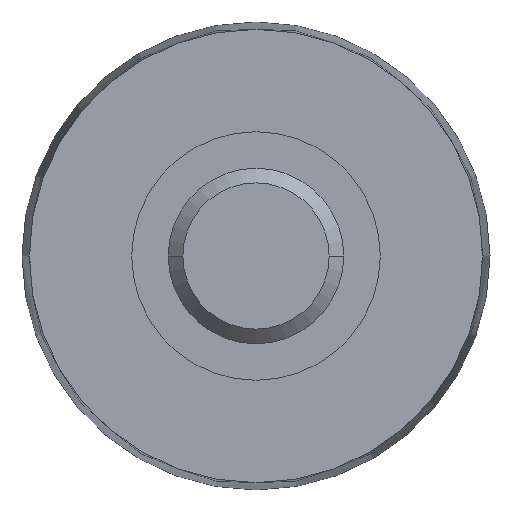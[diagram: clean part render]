
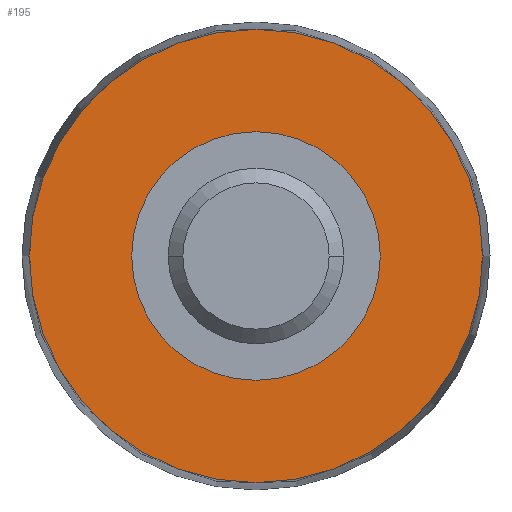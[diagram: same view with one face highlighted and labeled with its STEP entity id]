
A CAD part, left-side view. The second image highlights one B-rep face of the part: STEP entity #195.
In plain terms, the highlighted planar face has unit normal (-1, 0, 0).
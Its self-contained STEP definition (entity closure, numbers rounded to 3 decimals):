
#14 = DIRECTION ( 'NONE',  ( 1., 0., 0. ) ) ;
#26 = AXIS2_PLACEMENT_3D ( 'NONE', #164, #519, #525 ) ;
#27 = EDGE_CURVE ( 'NONE', #235, #449, #210, .T. ) ;
#49 = DIRECTION ( 'NONE',  ( 1., 0., 0. ) ) ;
#54 = EDGE_CURVE ( 'NONE', #654, #446, #470, .T. ) ;
#94 = CARTESIAN_POINT ( 'NONE',  ( -55., 0., 0. ) ) ;
#97 = EDGE_CURVE ( 'NONE', #449, #235, #582, .T. ) ;
#102 = DIRECTION ( 'NONE',  ( 0., 1., 0. ) ) ;
#115 = CARTESIAN_POINT ( 'NONE',  ( -55., 15.5, 0. ) ) ;
#130 = AXIS2_PLACEMENT_3D ( 'NONE', #609, #14, #102 ) ;
#144 = FACE_BOUND ( 'NONE', #247, .T. ) ;
#164 = CARTESIAN_POINT ( 'NONE',  ( -55., 8.5, 0. ) ) ;
#195 = ADVANCED_FACE ( 'NONE', ( #144, #397 ), #266, .T. ) ;
#210 = CIRCLE ( 'NONE', #369, 15.5 ) ;
#235 = VERTEX_POINT ( 'NONE', #115 ) ;
#247 = EDGE_LOOP ( 'NONE', ( #477, #366 ) ) ;
#266 = PLANE ( 'NONE',  #26 ) ;
#304 = DIRECTION ( 'NONE',  ( 0., 1., 0. ) ) ;
#358 = DIRECTION ( 'NONE',  ( 0., 1., 0. ) ) ;
#366 = ORIENTED_EDGE ( 'NONE', *, *, #615, .T. ) ;
#369 = AXIS2_PLACEMENT_3D ( 'NONE', #407, #462, #304 ) ;
#391 = CARTESIAN_POINT ( 'NONE',  ( -55., 8.5, 0. ) ) ;
#397 = FACE_OUTER_BOUND ( 'NONE', #481, .T. ) ;
#407 = CARTESIAN_POINT ( 'NONE',  ( -55., 0., 0. ) ) ;
#446 = VERTEX_POINT ( 'NONE', #527 ) ;
#449 = VERTEX_POINT ( 'NONE', #534 ) ;
#450 = DIRECTION ( 'NONE',  ( 0., 1., 0. ) ) ;
#462 = DIRECTION ( 'NONE',  ( 1., 0., 0. ) ) ;
#470 = CIRCLE ( 'NONE', #130, 8.5 ) ;
#477 = ORIENTED_EDGE ( 'NONE', *, *, #54, .T. ) ;
#481 = EDGE_LOOP ( 'NONE', ( #623, #629 ) ) ;
#492 = DIRECTION ( 'NONE',  ( 1., 0., 0. ) ) ;
#514 = AXIS2_PLACEMENT_3D ( 'NONE', #94, #492, #450 ) ;
#519 = DIRECTION ( 'NONE',  ( -1., 0., 0. ) ) ;
#525 = DIRECTION ( 'NONE',  ( 0., -1., 0. ) ) ;
#527 = CARTESIAN_POINT ( 'NONE',  ( -55., -8.5, 0. ) ) ;
#534 = CARTESIAN_POINT ( 'NONE',  ( -55., -15.5, 0. ) ) ;
#560 = CIRCLE ( 'NONE', #514, 8.5 ) ;
#582 = CIRCLE ( 'NONE', #645, 15.5 ) ;
#609 = CARTESIAN_POINT ( 'NONE',  ( -55., 0., 0. ) ) ;
#613 = CARTESIAN_POINT ( 'NONE',  ( -55., 0., 0. ) ) ;
#615 = EDGE_CURVE ( 'NONE', #446, #654, #560, .T. ) ;
#623 = ORIENTED_EDGE ( 'NONE', *, *, #27, .F. ) ;
#629 = ORIENTED_EDGE ( 'NONE', *, *, #97, .F. ) ;
#645 = AXIS2_PLACEMENT_3D ( 'NONE', #613, #49, #358 ) ;
#654 = VERTEX_POINT ( 'NONE', #391 ) ;
